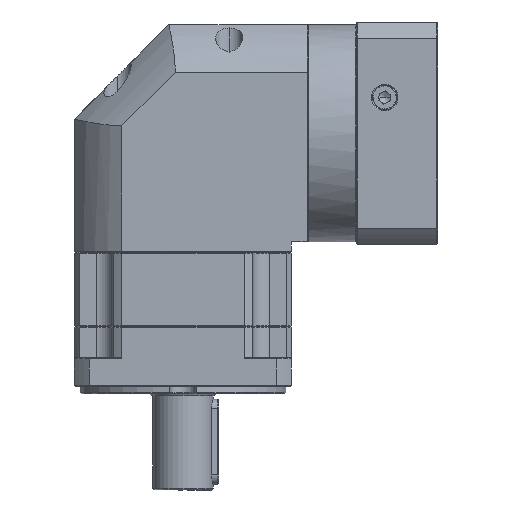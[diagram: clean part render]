
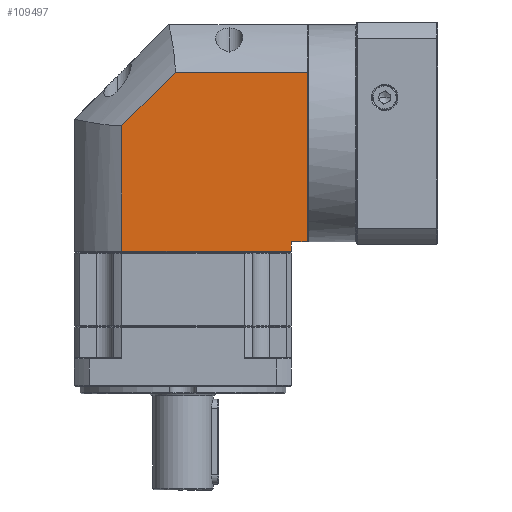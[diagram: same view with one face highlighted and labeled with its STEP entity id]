
A CAD part, front view. The second image highlights one B-rep face of the part: STEP entity #109497.
In plain terms, the highlighted planar face has unit normal (0, -1, 0).
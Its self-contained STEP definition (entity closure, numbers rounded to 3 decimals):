
#1091 = VERTEX_POINT ( 'NONE', #87489 ) ;
#2985 = VECTOR ( 'NONE', #37443, 1000. ) ;
#7678 = ORIENTED_EDGE ( 'NONE', *, *, #102591, .F. ) ;
#7812 = ORIENTED_EDGE ( 'NONE', *, *, #110106, .F. ) ;
#8287 = PLANE ( 'NONE',  #40810 ) ;
#8812 = DIRECTION ( 'NONE',  ( 0., 0., 1. ) ) ;
#13991 = LINE ( 'NONE', #87737, #37204 ) ;
#16791 = VECTOR ( 'NONE', #94273, 1000. ) ;
#17518 = CARTESIAN_POINT ( 'NONE',  ( 101.005, 0.612, -62.192 ) ) ;
#18478 = EDGE_CURVE ( 'NONE', #25151, #24561, #50168, .T. ) ;
#20687 = VECTOR ( 'NONE', #37496, 1000. ) ;
#21752 = ORIENTED_EDGE ( 'NONE', *, *, #67511, .F. ) ;
#23436 = DIRECTION ( 'NONE',  ( -1., 0., 0. ) ) ;
#23627 = LINE ( 'NONE', #23872, #47007 ) ;
#23872 = CARTESIAN_POINT ( 'NONE',  ( -13.995, 0.612, -50.692 ) ) ;
#24561 = VERTEX_POINT ( 'NONE', #104701 ) ;
#25151 = VERTEX_POINT ( 'NONE', #127732 ) ;
#31318 = LINE ( 'NONE', #81267, #2985 ) ;
#33462 = VERTEX_POINT ( 'NONE', #75862 ) ;
#37204 = VECTOR ( 'NONE', #43967, 1000. ) ;
#37443 = DIRECTION ( 'NONE',  ( 0.707, 0., 0.707 ) ) ;
#37496 = DIRECTION ( 'NONE',  ( 0., 0., -1. ) ) ;
#40810 = AXIS2_PLACEMENT_3D ( 'NONE', #60482, #82851, #41342 ) ;
#41342 = DIRECTION ( 'NONE',  ( 1., 0., 0. ) ) ;
#43215 = EDGE_CURVE ( 'NONE', #24561, #110885, #31318, .T. ) ;
#43967 = DIRECTION ( 'NONE',  ( -1., 0., 0. ) ) ;
#44532 = LINE ( 'NONE', #123086, #92917 ) ;
#47007 = VECTOR ( 'NONE', #23436, 1000. ) ;
#47510 = EDGE_LOOP ( 'NONE', ( #7678, #47633, #82345, #7812, #119525, #56395, #21752 ) ) ;
#47633 = ORIENTED_EDGE ( 'NONE', *, *, #73680, .F. ) ;
#50168 = LINE ( 'NONE', #72713, #115147 ) ;
#56395 = ORIENTED_EDGE ( 'NONE', *, *, #18478, .F. ) ;
#60482 = CARTESIAN_POINT ( 'NONE',  ( -13.995, 0.612, -62.192 ) ) ;
#63087 = CARTESIAN_POINT ( 'NONE',  ( -13.995, 0.612, 39.208 ) ) ;
#67511 = EDGE_CURVE ( 'NONE', #33462, #25151, #13991, .T. ) ;
#72713 = CARTESIAN_POINT ( 'NONE',  ( 11.105, 0.612, -62.192 ) ) ;
#73680 = EDGE_CURVE ( 'NONE', #81815, #1091, #23627, .T. ) ;
#75862 = CARTESIAN_POINT ( 'NONE',  ( 101.005, 0.612, -55.692 ) ) ;
#79018 = EDGE_CURVE ( 'NONE', #132598, #81815, #44532, .T. ) ;
#81267 = CARTESIAN_POINT ( 'NONE',  ( 11.105, 0.612, 10.87 ) ) ;
#81815 = VERTEX_POINT ( 'NONE', #123429 ) ;
#82345 = ORIENTED_EDGE ( 'NONE', *, *, #79018, .F. ) ;
#82851 = DIRECTION ( 'NONE',  ( 0., 1., 0. ) ) ;
#87489 = CARTESIAN_POINT ( 'NONE',  ( 101.005, 0.612, -50.692 ) ) ;
#87737 = CARTESIAN_POINT ( 'NONE',  ( -13.995, 0.612, -55.692 ) ) ;
#92917 = VECTOR ( 'NONE', #102109, 1000. ) ;
#94273 = DIRECTION ( 'NONE',  ( 1., 0., 0. ) ) ;
#97915 = CARTESIAN_POINT ( 'NONE',  ( 109.405, 0.612, 39.208 ) ) ;
#102109 = DIRECTION ( 'NONE',  ( 0., 0., -1. ) ) ;
#102591 = EDGE_CURVE ( 'NONE', #1091, #33462, #108964, .T. ) ;
#104701 = CARTESIAN_POINT ( 'NONE',  ( 11.105, 0.612, 10.87 ) ) ;
#107891 = FACE_OUTER_BOUND ( 'NONE', #47510, .T. ) ;
#108964 = LINE ( 'NONE', #17518, #20687 ) ;
#109497 = ADVANCED_FACE ( 'NONE', ( #107891 ), #8287, .F. ) ;
#110106 = EDGE_CURVE ( 'NONE', #110885, #132598, #121776, .T. ) ;
#110885 = VERTEX_POINT ( 'NONE', #135605 ) ;
#115147 = VECTOR ( 'NONE', #8812, 1000. ) ;
#119525 = ORIENTED_EDGE ( 'NONE', *, *, #43215, .F. ) ;
#121776 = LINE ( 'NONE', #63087, #16791 ) ;
#123086 = CARTESIAN_POINT ( 'NONE',  ( 109.405, 0.612, -62.192 ) ) ;
#123429 = CARTESIAN_POINT ( 'NONE',  ( 109.405, 0.612, -50.692 ) ) ;
#127732 = CARTESIAN_POINT ( 'NONE',  ( 11.105, 0.612, -55.692 ) ) ;
#132598 = VERTEX_POINT ( 'NONE', #97915 ) ;
#135605 = CARTESIAN_POINT ( 'NONE',  ( 39.443, 0.612, 39.208 ) ) ;
